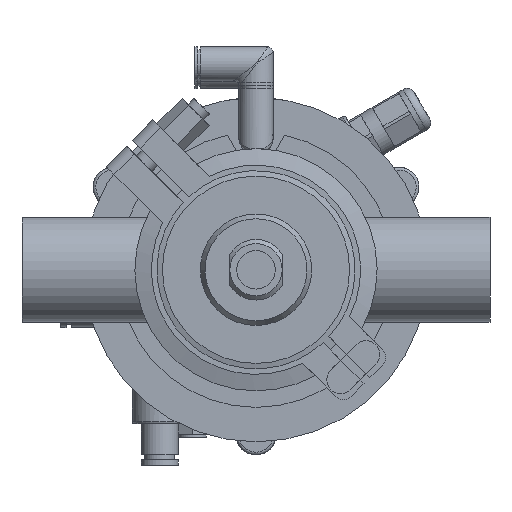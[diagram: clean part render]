
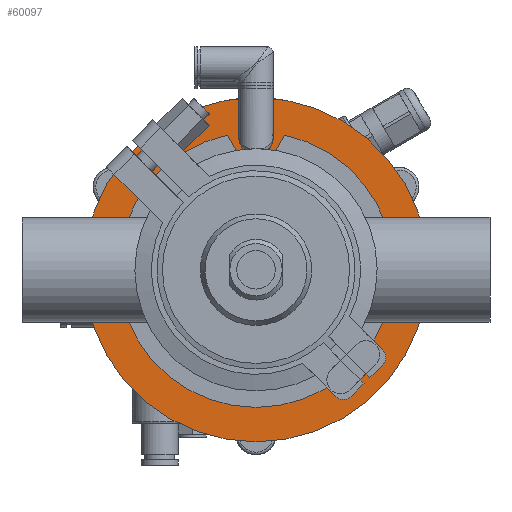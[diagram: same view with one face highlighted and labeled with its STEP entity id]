
A CAD part, front view. The second image highlights one B-rep face of the part: STEP entity #60097.
In plain terms, the highlighted planar face has unit normal (0, -1, 0).
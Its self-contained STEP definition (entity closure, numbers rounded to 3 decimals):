
#575 = CARTESIAN_POINT ( 'NONE',  ( 0., 0., 54.25 ) ) ;
#3182 = AXIS2_PLACEMENT_3D ( 'NONE', #9499, #47899, #5039 ) ;
#5014 = VERTEX_POINT ( 'NONE', #575 ) ;
#5039 = DIRECTION ( 'NONE',  ( 0., 0., 1. ) ) ;
#9499 = CARTESIAN_POINT ( 'NONE',  ( 0., 0., 0. ) ) ;
#17220 = EDGE_LOOP ( 'NONE', ( #26482 ) ) ;
#18313 = FACE_BOUND ( 'NONE', #17220, .T. ) ;
#18779 = DIRECTION ( 'NONE',  ( 0., -1., 0. ) ) ;
#20484 = VERTEX_POINT ( 'NONE', #49100 ) ;
#26482 = ORIENTED_EDGE ( 'NONE', *, *, #28267, .F. ) ;
#28267 = EDGE_CURVE ( 'NONE', #5014, #5014, #45881, .T. ) ;
#29471 = DIRECTION ( 'NONE',  ( 0., 0., 1. ) ) ;
#29769 = EDGE_CURVE ( 'NONE', #20484, #20484, #36828, .T. ) ;
#30796 = AXIS2_PLACEMENT_3D ( 'NONE', #47341, #41990, #51485 ) ;
#36828 = CIRCLE ( 'NONE', #30796, 62.5 ) ;
#37830 = AXIS2_PLACEMENT_3D ( 'NONE', #43042, #18779, #29471 ) ;
#38472 = FACE_OUTER_BOUND ( 'NONE', #41578, .T. ) ;
#41578 = EDGE_LOOP ( 'NONE', ( #47923 ) ) ;
#41990 = DIRECTION ( 'NONE',  ( 0., -1., 0. ) ) ;
#43042 = CARTESIAN_POINT ( 'NONE',  ( 0., 0., 48. ) ) ;
#45881 = CIRCLE ( 'NONE', #37830, 6.25 ) ;
#47341 = CARTESIAN_POINT ( 'NONE',  ( 0., 0., 0. ) ) ;
#47899 = DIRECTION ( 'NONE',  ( 0., 1., 0. ) ) ;
#47923 = ORIENTED_EDGE ( 'NONE', *, *, #29769, .T. ) ;
#49100 = CARTESIAN_POINT ( 'NONE',  ( 0., 0., -62.5 ) ) ;
#51485 = DIRECTION ( 'NONE',  ( 0., 0., -1. ) ) ;
#57718 = PLANE ( 'NONE',  #3182 ) ;
#60097 = ADVANCED_FACE ( 'NONE', ( #18313, #38472 ), #57718, .F. ) ;
